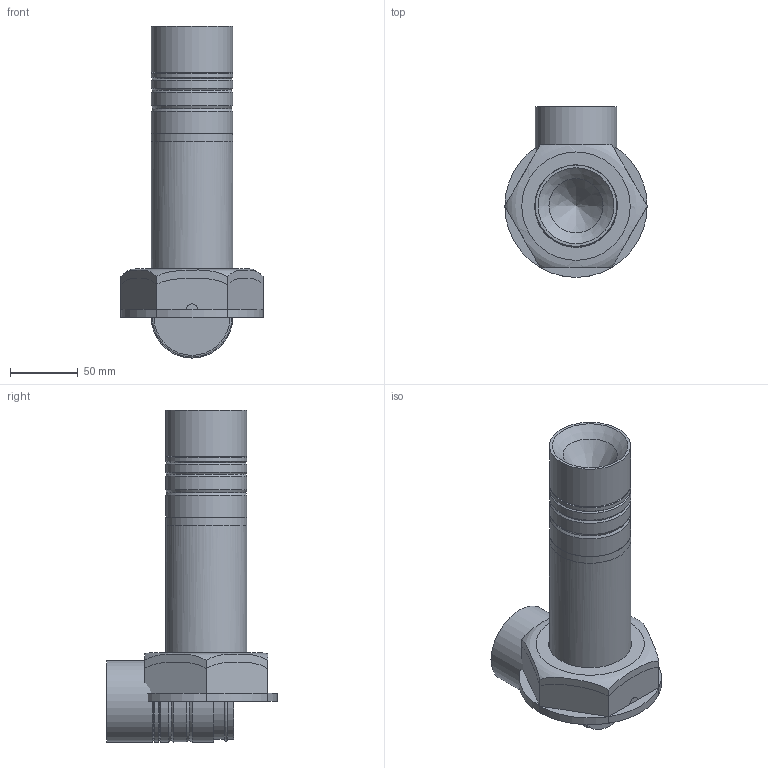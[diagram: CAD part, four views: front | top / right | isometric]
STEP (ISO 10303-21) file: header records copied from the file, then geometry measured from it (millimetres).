
FILE_DESCRIPTION( ( 'STEP AP203' ), '1' );
FILE_NAME( '//srvbf/BF Disegni/ARRIGHI FRANCESCA/DADO/DADO-L Lumetto DADO.stp', '2020-10-15T07:12:58', ( ' ' ), ( ' ' ), 'XStep 1.0', ' ', ' ' );
FILE_SCHEMA( ( 'CONFIG_CONTROL_DESIGN) ( )' ) );
Length unit declared in the file: metre
Products named in the file (6): Assem1; 1; 2; 3; 4; 5
Bounding box: 105 x 125.93 x 244.94 mm (x, y, z)
Volume: 893733.4 mm3; surface area: 238935.8 mm2
Topology: 10 solids, 10 shells, 102 faces, 228 edges, 144 vertices
Faces by surface type: plane 46, cylinder 32, cone 18, torus 4, bspline 2
Full cylindrical faces by diameter (mm): 8.917 x2, 10 x2, 54.37 x2, 55.969 x4, 57 x2, 59.967 x10, 60 x2, 61 x2, 105 x2
Entity records: 1816 total; most frequent: CARTESIAN_POINT 530, DIRECTION 223, ORIENTED_EDGE 160, AXIS2_PLACEMENT_3D 96, EDGE_LOOP 86, EDGE_CURVE 80, FACE_OUTER_BOUND 65, VERTEX_POINT 65
